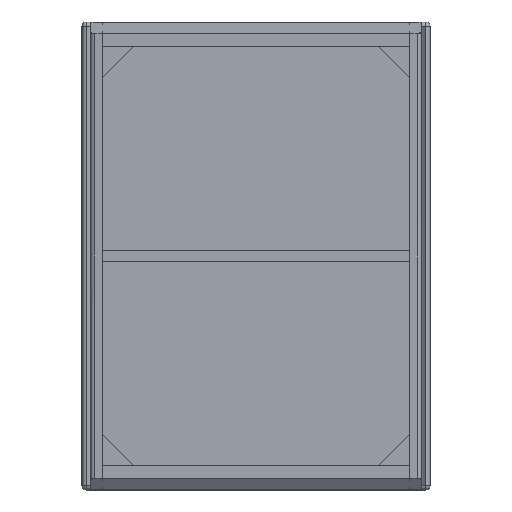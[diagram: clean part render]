
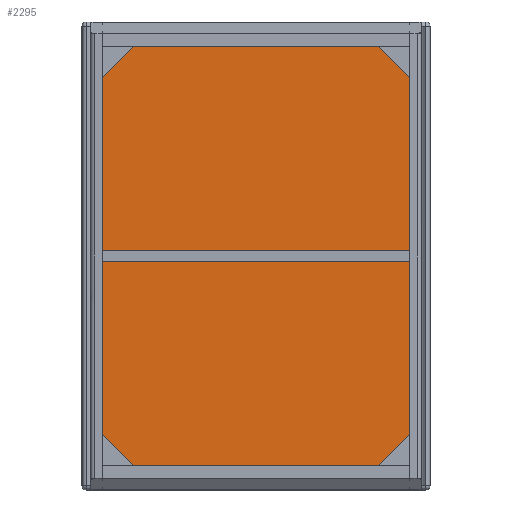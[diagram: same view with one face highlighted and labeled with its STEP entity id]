
A CAD part, front view. The second image highlights one B-rep face of the part: STEP entity #2295.
In plain terms, the highlighted planar face has unit normal (0, -1, 0).
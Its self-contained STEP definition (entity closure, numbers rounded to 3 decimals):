
#241=FACE_OUTER_BOUND('',#403,.T.);
#403=EDGE_LOOP('',(#1632,#1633,#1634,#1635));
#584=LINE('',#3553,#812);
#588=LINE('',#3561,#816);
#591=LINE('',#3567,#819);
#594=LINE('',#3572,#822);
#812=VECTOR('',#2815,1000.);
#816=VECTOR('',#2821,1000.);
#819=VECTOR('',#2826,1000.);
#822=VECTOR('',#2831,1000.);
#1024=VERTEX_POINT('',#3551);
#1025=VERTEX_POINT('',#3552);
#1028=VERTEX_POINT('',#3560);
#1030=VERTEX_POINT('',#3566);
#1236=EDGE_CURVE('',#1024,#1025,#584,.T.);
#1240=EDGE_CURVE('',#1025,#1028,#588,.T.);
#1243=EDGE_CURVE('',#1028,#1030,#591,.T.);
#1246=EDGE_CURVE('',#1030,#1024,#594,.T.);
#1632=ORIENTED_EDGE('',*,*,#1236,.F.);
#1633=ORIENTED_EDGE('',*,*,#1246,.F.);
#1634=ORIENTED_EDGE('',*,*,#1243,.F.);
#1635=ORIENTED_EDGE('',*,*,#1240,.F.);
#2201=PLANE('',#2494);
#2295=ADVANCED_FACE('',(#241),#2201,.F.);
#2494=AXIS2_PLACEMENT_3D('',#3575,#2835,#2836);
#2815=DIRECTION('',(-1.,0.,0.));
#2821=DIRECTION('',(0.,0.,1.));
#2826=DIRECTION('',(1.,0.,0.));
#2831=DIRECTION('',(0.,0.,-1.));
#2835=DIRECTION('center_axis',(0.,1.,0.));
#2836=DIRECTION('ref_axis',(1.,0.,0.));
#3551=CARTESIAN_POINT('',(266.634,-37.113,-568.718));
#3552=CARTESIAN_POINT('',(-471.366,-37.113,-568.718));
#3553=CARTESIAN_POINT('',(-471.366,-37.113,-568.718));
#3560=CARTESIAN_POINT('',(-471.366,-37.113,477.282));
#3561=CARTESIAN_POINT('',(-471.366,-37.113,477.282));
#3566=CARTESIAN_POINT('',(266.634,-37.113,477.282));
#3567=CARTESIAN_POINT('',(-471.366,-37.113,477.282));
#3572=CARTESIAN_POINT('',(266.634,-37.113,477.282));
#3575=CARTESIAN_POINT('Origin',(-102.366,-37.113,-45.718));
